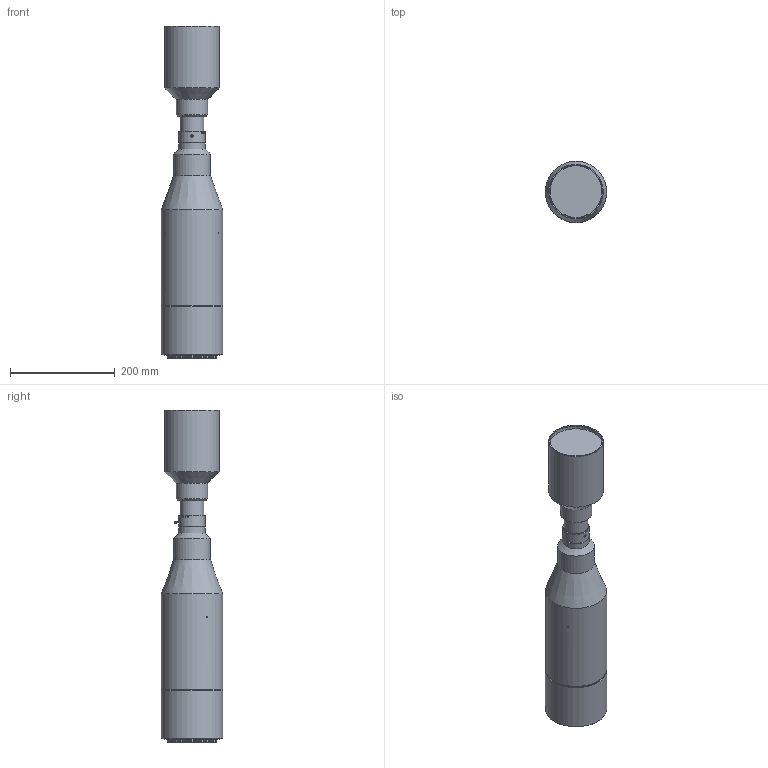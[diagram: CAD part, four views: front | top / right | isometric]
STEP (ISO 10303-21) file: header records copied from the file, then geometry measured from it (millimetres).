
FILE_DESCRIPTION (( 'STEP AP203' ), '1' );
FILE_NAME ('A22821A0000101A_MTL-8082M95-103.STEP', '2017-05-10T07:53:23', ( '' ), ( '' ), 'SwSTEP 2.0', 'SolidWorks 2014', '' );
FILE_SCHEMA (( 'CONFIG_CONTROL_DESIGN' ));
Length unit declared in the file: millimetre
Products named in the file (1): A22821A0000101A_MTL-8082M95-103
Bounding box: 117 x 117 x 633.48 mm (x, y, z)
Volume: 4874316.1 mm3; surface area: 223811.9 mm2
Topology: 1 solids, 1 shells, 245 faces, 636 edges, 421 vertices
Faces by surface type: cylinder 114, plane 64, bspline 40, cone 27
Full cylindrical faces by diameter (mm): 1.548 x1, 1.6 x2, 2 x1, 2.5 x3, 4 x1, 4.5 x1, 45.392 x1, 45.5 x1, 50 x2, 60 x1, 70 x1, 89 x1, 93.92 x1, 95 x1, 98.92 x1, 104 x1, 116 x1, 117 x2
Entity records: 15433 total; most frequent: CARTESIAN_POINT 10348, ORIENTED_EDGE 1148, DIRECTION 740, EDGE_CURVE 574, VERTEX_POINT 404, B_SPLINE_CURVE_WITH_KNOTS 342, EDGE_LOOP 318, AXIS2_PLACEMENT_3D 302
